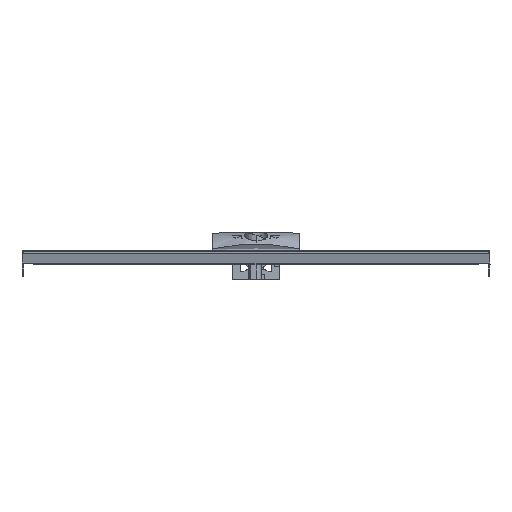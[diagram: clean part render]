
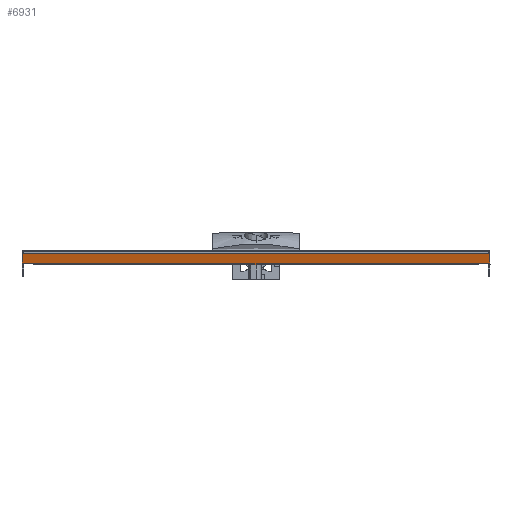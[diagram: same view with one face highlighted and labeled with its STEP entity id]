
A CAD part, left-side view. The second image highlights one B-rep face of the part: STEP entity #6931.
In plain terms, the highlighted planar face has unit normal (-0.966, 0, -0.259).
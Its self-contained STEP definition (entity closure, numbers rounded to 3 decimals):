
#138=DIRECTION('',(-0.259,0.,0.966));
#139=VECTOR('',#138,5.165);
#140=CARTESIAN_POINT('',(1.337,0.,7.2));
#141=LINE('',#140,#139);
#714=DIRECTION('',(0.259,0.,-0.966));
#715=VECTOR('',#714,5.165);
#716=CARTESIAN_POINT('',(0.,249.,12.189));
#717=LINE('',#716,#715);
#750=DIRECTION('',(0.,1.,0.));
#751=VECTOR('',#750,6.3);
#752=CARTESIAN_POINT('',(1.337,242.7,7.2));
#753=LINE('',#752,#751);
#754=DIRECTION('',(0.,-1.,0.));
#755=VECTOR('',#754,249.);
#756=CARTESIAN_POINT('',(0.,249.,12.189));
#757=LINE('',#756,#755);
#758=DIRECTION('',(0.,1.,0.));
#759=VECTOR('',#758,6.3);
#760=CARTESIAN_POINT('',(1.337,0.,7.2));
#761=LINE('',#760,#759);
#3354=DIRECTION('',(0.,-1.,0.));
#3355=VECTOR('',#3354,236.4);
#3356=CARTESIAN_POINT('',(1.551,242.7,6.4));
#3357=LINE('',#3356,#3355);
#3394=DIRECTION('',(0.259,0.,-0.966));
#3395=VECTOR('',#3394,0.828);
#3396=CARTESIAN_POINT('',(1.337,242.7,7.2));
#3397=LINE('',#3396,#3395);
#3402=DIRECTION('',(-0.259,0.,0.966));
#3403=VECTOR('',#3402,0.828);
#3404=CARTESIAN_POINT('',(1.551,6.3,6.4));
#3405=LINE('',#3404,#3403);
#4876=CARTESIAN_POINT('',(1.337,0.,7.2));
#4877=VERTEX_POINT('',#4876);
#4878=CARTESIAN_POINT('',(0.,0.,12.189));
#4879=VERTEX_POINT('',#4878);
#5109=CARTESIAN_POINT('',(1.337,249.,7.2));
#5111=VERTEX_POINT('',#5109);
#5150=CARTESIAN_POINT('',(0.,249.,12.189));
#5151=VERTEX_POINT('',#5150);
#5160=CARTESIAN_POINT('',(1.337,242.7,7.2));
#5161=VERTEX_POINT('',#5160);
#5164=CARTESIAN_POINT('',(1.337,6.3,7.2));
#5165=VERTEX_POINT('',#5164);
#5166=CARTESIAN_POINT('',(1.551,6.3,6.4));
#5167=VERTEX_POINT('',#5166);
#5168=CARTESIAN_POINT('',(1.551,242.7,6.4));
#5169=VERTEX_POINT('',#5168);
#6911=CARTESIAN_POINT('',(0.,0.,12.189));
#6912=DIRECTION('',(-0.966,0.,-0.259));
#6913=DIRECTION('',(0.259,0.,-0.966));
#6914=AXIS2_PLACEMENT_3D('',#6911,#6912,#6913);
#6915=PLANE('',#6914);
#6916=ORIENTED_EDGE('',*,*,#6902,.T.);
#6917=ORIENTED_EDGE('',*,*,#6879,.F.);
#6919=ORIENTED_EDGE('',*,*,#6918,.T.);
#6920=ORIENTED_EDGE('',*,*,#6280,.F.);
#6922=ORIENTED_EDGE('',*,*,#6921,.T.);
#6924=ORIENTED_EDGE('',*,*,#6923,.F.);
#6926=ORIENTED_EDGE('',*,*,#6925,.F.);
#6928=ORIENTED_EDGE('',*,*,#6927,.F.);
#6929=EDGE_LOOP('',(#6916,#6917,#6919,#6920,#6922,#6924,#6926,#6928));
#6930=FACE_OUTER_BOUND('',#6929,.F.);
#6280=EDGE_CURVE('',#4877,#4879,#141,.T.);
#6879=EDGE_CURVE('',#5151,#5111,#717,.T.);
#6902=EDGE_CURVE('',#5161,#5111,#753,.T.);
#6918=EDGE_CURVE('',#5151,#4879,#757,.T.);
#6921=EDGE_CURVE('',#4877,#5165,#761,.T.);
#6923=EDGE_CURVE('',#5167,#5165,#3405,.T.);
#6925=EDGE_CURVE('',#5169,#5167,#3357,.T.);
#6927=EDGE_CURVE('',#5161,#5169,#3397,.T.);
#6931=ADVANCED_FACE('',(#6930),#6915,.T.);
